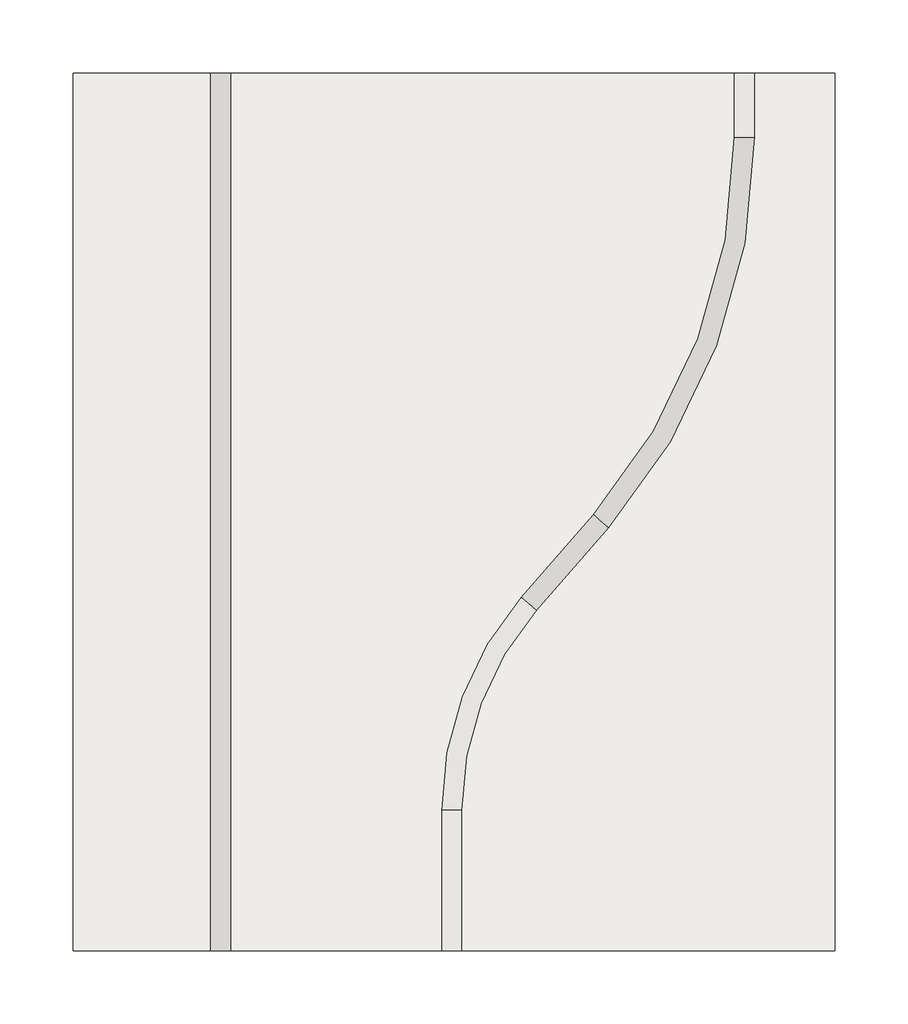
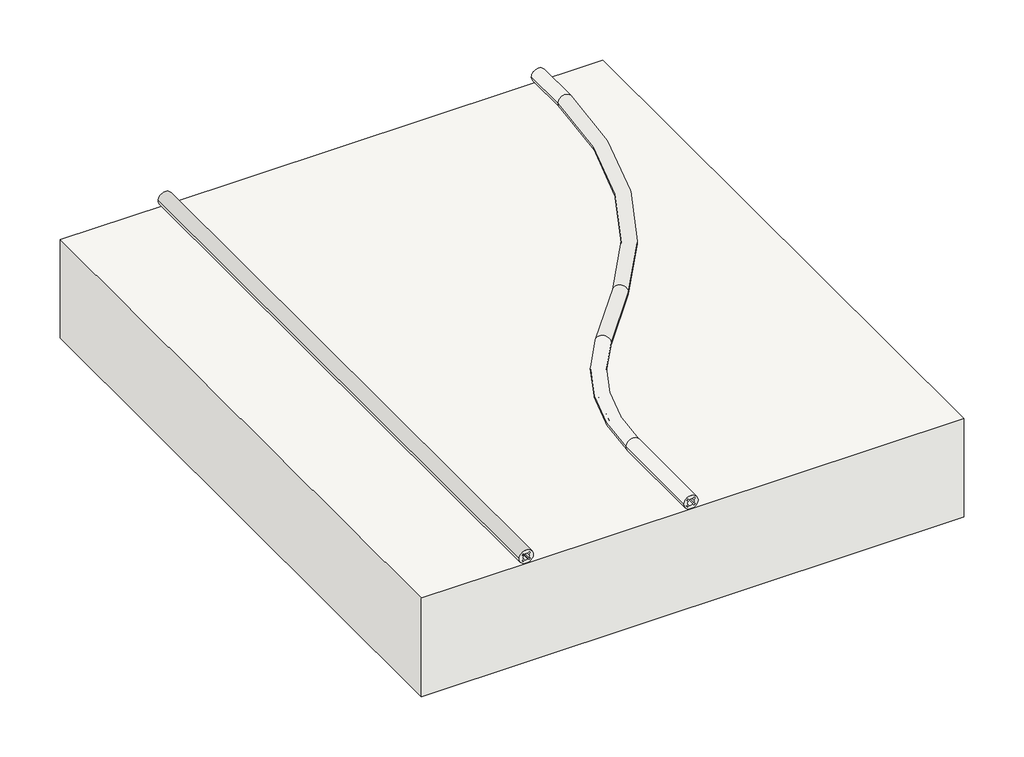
# One storey: 2 coverings, 1 slab.
"""IFC4 building model written with IfcOpenShell, lengths in millimetres."""

from ifc_helpers import new_model, si_unit, origin, place, context, project, spatial, faceted_brep, transform, mapped, element, save
from components import covering_f5c34b17, covering_1cc77500

model = new_model("IFC4")

# Units and contexts
model_context = context("Model", 3, world=origin())
ifc_project = project(units=[si_unit("LENGTHUNIT", "METRE", prefix="MILLI")], contexts=[model_context])

# Site, building, storey
site = spatial("IfcSite", under=ifc_project)
building = spatial("IfcBuilding", under=site)
storey = spatial("IfcBuildingStorey", under=building, Name="SikaFuko® VT-1", Elevation=0.0)

# Coverings
placement = place(None, origin())
covering_shape = covering_f5c34b17(model_context)
element("IfcCovering", 1, ObjectType="SikaFuko® VT 1 : SikaFuko® VT-1", at=placement, inside=storey, context=model_context, shape_type="MappedRepresentation", body=[
    mapped(covering_shape, transform((0.0, 0.0, 0.0), x_axis=(1.0, 0.0, 0.0), y_axis=(0.0, 1.0, 0.0), z_axis=(0.0, 0.0, 1.0))),
])
covering_2_shape = covering_1cc77500(model_context)
element("IfcCovering", 2, ObjectType="SikaFuko® VT-1 : SikaFuko® VT-1", at=placement, inside=storey, context=model_context, shape_type="MappedRepresentation", body=[
    mapped(covering_2_shape, transform((2638.4010037, 3596.0955189, 6.75), x_axis=(0.0, 1.0, 0.0), y_axis=(-1.0, 0.0, 0.0), z_axis=(0.0, 0.0, 1.0))),
])

# Slab
element("IfcSlab", 3, ObjectType="Suelo 1", at=placement, inside=storey, context=model_context, shape_type="Brep", body=[
    faceted_brep([(3058.4010037, 4196.0955189, -100.0), (3058.4010037, 3596.0955189, -100.0), (2537.4485246, 3596.0955189, -100.0), (2537.4485246, 4196.0955189, -100.0), (3058.4010037, 3596.0955189, 0.0), (3058.4010037, 4196.0955189, 0.0), (2638.4010037, 4196.0955189, 0.0), (2537.4485246, 4196.0955189, 0.0), (2537.4485246, 3596.0955189, 0.0), (2638.4010037, 3596.0955189, 0.0)], [[[0, 1, 2, 3]], [[4, 5, 6, 7, 8, 9]], [[1, 0, 5, 4]], [[2, 1, 4, 9, 8]], [[3, 2, 8, 7]], [[0, 3, 7, 6, 5]]]),
])

save(model, "model.ifc")
